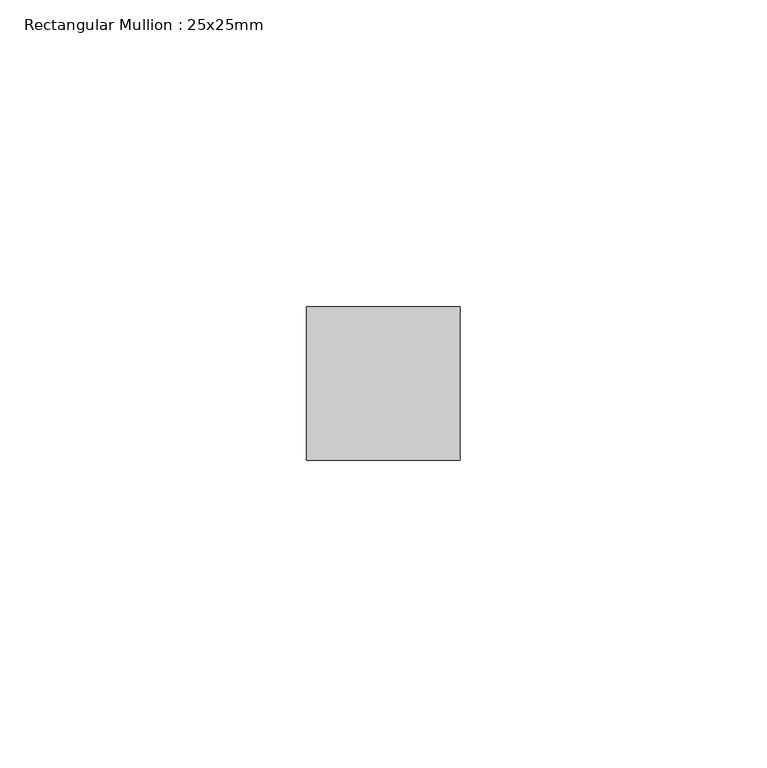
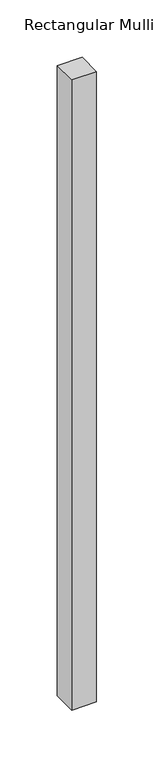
"""IFC4 building model written with IfcOpenShell, lengths in millimetres: member geometry, Rectangular Mullion : 25x25mm."""

from ifc_helpers import new_model, si_unit, frame, origin, place, context, project, spatial, polyline, outline, extrude, source, transform, mapped, element, save


def rectangular_mullion_25x25mm_b4b9a9ee(model_context):
    return source(origin(), model_context, "Body", "SweptSolid", [
        extrude(outline(polyline([(12.5, 0.5), (12.5, -24.5), (-12.5, -24.5), (-12.5, 0.5), (12.5, 0.5)])), frame((0.0, 0.0, -671.6666668), z_axis=(0.0, 0.0, 1.0), x_axis=(1.0, 0.0, 0.0)), (0.0, 0.0, 1.0), 671.6666668),
    ])


if __name__ == "__main__":
    model = new_model("IFC4")
    model_context = context("Model", 3, world=origin())
    ifc_project = project(units=[si_unit("LENGTHUNIT", "METRE", prefix="MILLI")], contexts=[model_context])
    site = spatial("IfcSite", under=ifc_project)
    building = spatial("IfcBuilding", under=site)
    placement = place(None, origin())
    rectangular_mullion_25x25mm_shape = rectangular_mullion_25x25mm_b4b9a9ee(model_context)
    element("IfcMember", 1, ObjectType="Rectangular Mullion : 25x25mm", at=placement, inside=building, context=model_context, shape_type="MappedRepresentation", body=[
        mapped(rectangular_mullion_25x25mm_shape, transform((0.0, 0.0, 0.0), x_axis=(1.0, 0.0, 0.0), y_axis=(0.0, 1.0, 0.0), z_axis=(0.0, 0.0, 1.0))),
    ])
    save(model, "model.ifc")
